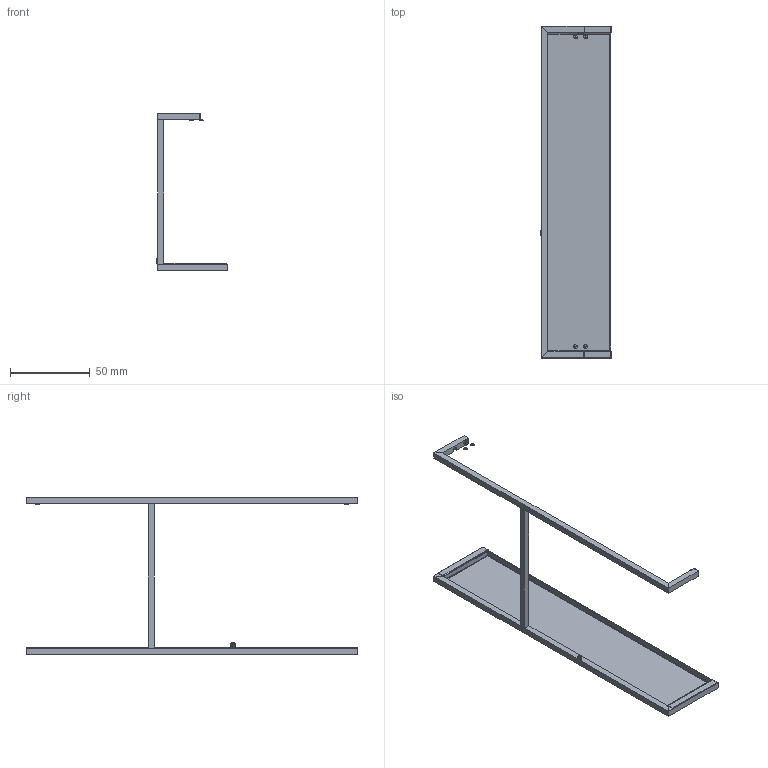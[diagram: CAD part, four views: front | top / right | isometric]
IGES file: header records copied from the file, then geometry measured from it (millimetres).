
Global section: file name: BlancoWhite R1 Rotating; native system: Unknown; preprocessor: BodyObjectToATFToIges; author: Autodesk 3ds Max; organization: Autodesk; date: 20180117.101308; units: centimetre
Bounding box: 45.04 x 207.87 x 98.43 mm (x, y, z)
Surface area: 28072.1 mm2 (no closed solid volume)
Topology: 0 solids, 0 shells, 100 faces, 487 edges, 487 vertices
Faces by surface type: bspline 83, revolution 17
